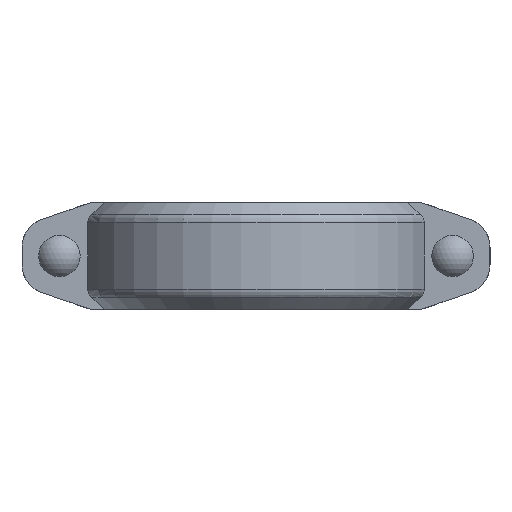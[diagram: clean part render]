
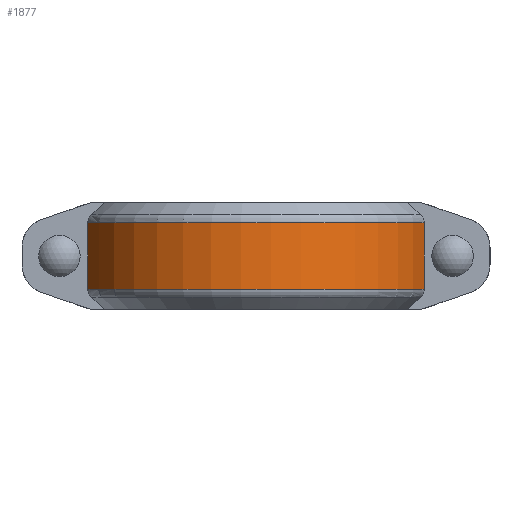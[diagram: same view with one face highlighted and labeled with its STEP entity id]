
A CAD part, front view. The second image highlights one B-rep face of the part: STEP entity #1877.
In plain terms, the highlighted cylindrical face has radius 93.726 mm (diameter 187.452 mm), a partial arc.
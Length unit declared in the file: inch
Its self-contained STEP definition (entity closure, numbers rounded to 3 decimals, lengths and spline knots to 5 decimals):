
#223=FACE_OUTER_BOUND('',#326,.T.);
#326=EDGE_LOOP('',(#1629,#1630,#1631,#1632));
#468=LINE('',#3103,#621);
#487=LINE('',#3247,#640);
#621=VECTOR('',#2531,0.3937);
#640=VECTOR('',#2576,0.3937);
#695=CIRCLE('',#2096,3.69);
#698=CIRCLE('',#2101,3.69);
#856=VERTEX_POINT('',#3089);
#857=VERTEX_POINT('',#3102);
#878=VERTEX_POINT('',#3233);
#879=VERTEX_POINT('',#3246);
#1097=EDGE_CURVE('',#857,#856,#468,.T.);
#1129=EDGE_CURVE('',#879,#878,#487,.T.);
#1136=EDGE_CURVE('',#879,#856,#695,.T.);
#1139=EDGE_CURVE('',#878,#857,#698,.T.);
#1629=ORIENTED_EDGE('',*,*,#1129,.T.);
#1630=ORIENTED_EDGE('',*,*,#1139,.T.);
#1631=ORIENTED_EDGE('',*,*,#1097,.T.);
#1632=ORIENTED_EDGE('',*,*,#1136,.F.);
#1701=CYLINDRICAL_SURFACE('',#2100,3.69);
#1877=ADVANCED_FACE('',(#223),#1701,.T.);
#2096=AXIS2_PLACEMENT_3D('',#3272,#2590,#2591);
#2100=AXIS2_PLACEMENT_3D('',#3276,#2598,#2599);
#2101=AXIS2_PLACEMENT_3D('',#3277,#2600,#2601);
#2531=DIRECTION('',(0.,0.,-1.));
#2576=DIRECTION('',(0.,0.,1.));
#2590=DIRECTION('center_axis',(0.,0.,-1.));
#2591=DIRECTION('ref_axis',(1.,0.,0.));
#2598=DIRECTION('center_axis',(0.,0.,-1.));
#2599=DIRECTION('ref_axis',(0.,1.,0.));
#2600=DIRECTION('center_axis',(0.,0.,-1.));
#2601=DIRECTION('ref_axis',(1.,0.,0.));
#3089=CARTESIAN_POINT('',(3.54908,1.01,-0.69698));
#3102=CARTESIAN_POINT('',(3.54908,1.01,0.69698));
#3103=CARTESIAN_POINT('',(3.54908,1.01,0.));
#3233=CARTESIAN_POINT('',(-3.54908,1.01,0.69698));
#3246=CARTESIAN_POINT('',(-3.54908,1.01,-0.69698));
#3247=CARTESIAN_POINT('',(-3.54908,1.01,0.));
#3272=CARTESIAN_POINT('Origin',(0.,0.,-0.69698));
#3276=CARTESIAN_POINT('Origin',(0.,0.,0.));
#3277=CARTESIAN_POINT('Origin',(0.,0.,0.69698));
